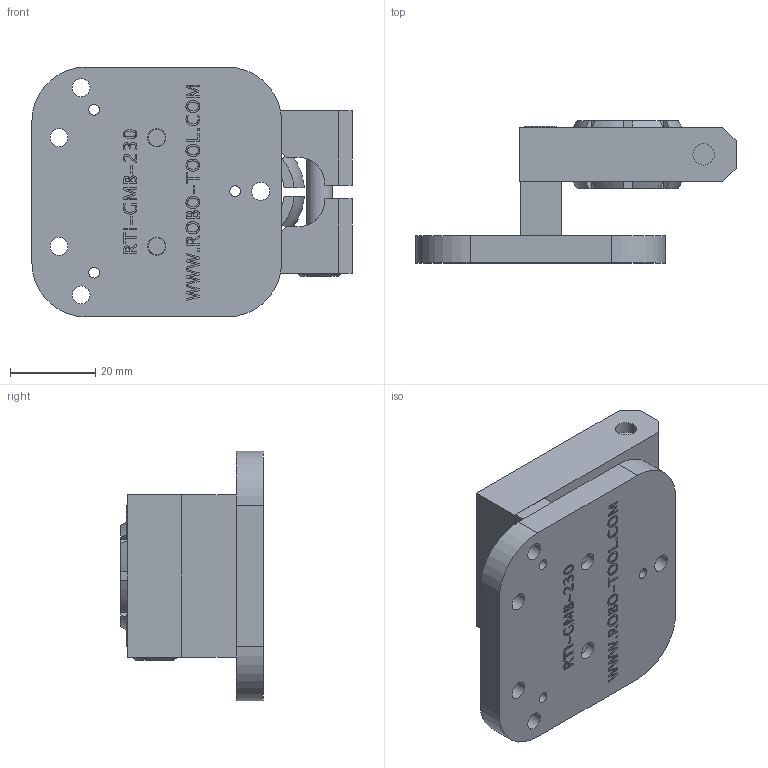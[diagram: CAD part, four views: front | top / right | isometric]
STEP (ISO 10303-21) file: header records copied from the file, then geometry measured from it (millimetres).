
FILE_DESCRIPTION (( 'STEP AP214' ), '1' );
FILE_NAME ('RTI-SGM-75-GMB-230.STEP', '2013-10-22T14:46:13', ( 'user' ), ( '' ), 'SwSTEP 2.0', 'SolidWorks 2009', '' );
FILE_SCHEMA (( 'AUTOMOTIVE_DESIGN' ));
Length unit declared in the file: inch
Products named in the file (10): RTI-SM-SP-50; RTI-GMB-230; M5 WASHER; M5 S.H.C.S._M5x25mm; RTI-SMB-75; 1.125 OD_.758 ID_Swivel_Ball; M6 S.H.C.S._M6x30mm; RTI-SGM-75-GMB-230; M6 WASHER
Assembly tree (11 placements, depth 3):
  RTI-SGM-75-GMB-230
    M5 S.H.C.S._M5x25mm  x2
    M5 WASHER  x2
    RTI-SM-SP-50
    RTI-SMB-75
      M6 WASHER
      1.125 OD_.758 ID_Swivel_Ball
      RTI-SMB-75
      M6 S.H.C.S._M6x30mm
    RTI-GMB-230
Bounding box: 74.93 x 33.34 x 58.42 mm (x, y, z)
Volume: 43947.1 mm3; surface area: 23610.9 mm2
Topology: 10 solids, 10 shells, 1047 faces, 2723 edges, 1811 vertices
Faces by surface type: plane 627, bspline 321, cylinder 77, cone 12, torus 8, sphere 2
Entity records: 62712 total; most frequent: CARTESIAN_POINT 28267, ORIENTED_EDGE 5336, DIRECTION 3607, EDGE_CURVE 2668, LINE 1839, VECTOR 1839, VERTEX_POINT 1776, EDGE_LOOP 1174
